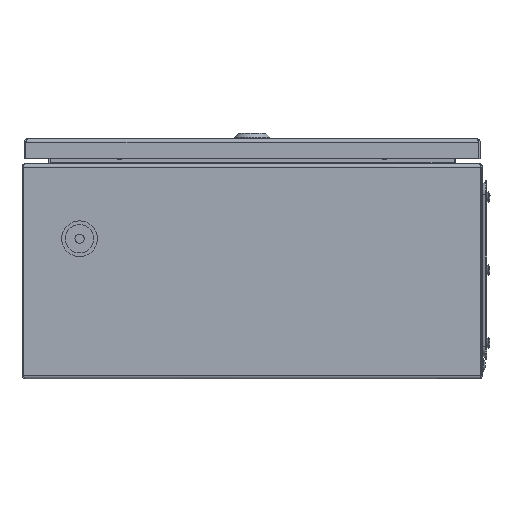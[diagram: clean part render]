
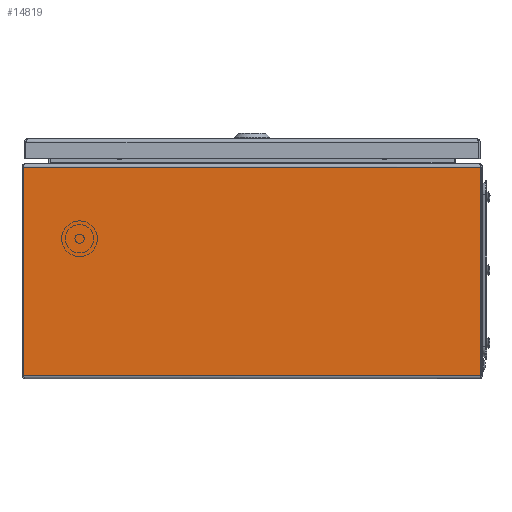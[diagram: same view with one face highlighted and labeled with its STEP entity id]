
A CAD part, left-side view. The second image highlights one B-rep face of the part: STEP entity #14819.
In plain terms, the highlighted planar face has unit normal (-1, 0, 0).
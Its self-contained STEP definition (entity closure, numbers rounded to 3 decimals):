
#332 = CARTESIAN_POINT ( 'NONE',  ( -150., -198.729, 2.7 ) ) ;
#693 = LINE ( 'NONE', #29818, #34595 ) ;
#1400 = DIRECTION ( 'NONE',  ( 0., -1., 0. ) ) ;
#2024 = VERTEX_POINT ( 'NONE', #33090 ) ;
#3063 = EDGE_CURVE ( 'NONE', #37687, #28080, #14276, .T. ) ;
#3817 = ORIENTED_EDGE ( 'NONE', *, *, #17476, .F. ) ;
#3936 = CARTESIAN_POINT ( 'NONE',  ( -150., -198.623, 184.05 ) ) ;
#5029 = ORIENTED_EDGE ( 'NONE', *, *, #45380, .F. ) ;
#5090 = CARTESIAN_POINT ( 'NONE',  ( -150., -198.729, 184.05 ) ) ;
#6542 = LINE ( 'NONE', #21605, #12563 ) ;
#6848 = ORIENTED_EDGE ( 'NONE', *, *, #13715, .T. ) ;
#8447 = VECTOR ( 'NONE', #29620, 1000. ) ;
#9997 = DIRECTION ( 'NONE',  ( 0., 1., 0. ) ) ;
#10684 = DIRECTION ( 'NONE',  ( 0., 0., 1. ) ) ;
#11633 = VERTEX_POINT ( 'NONE', #44480 ) ;
#12563 = VECTOR ( 'NONE', #9997, 1000. ) ;
#13715 = EDGE_CURVE ( 'NONE', #43578, #2024, #6542, .T. ) ;
#14276 = LINE ( 'NONE', #33347, #8447 ) ;
#14819 = ADVANCED_FACE ( 'NONE', ( #47043 ), #32231, .F. ) ;
#14958 = DIRECTION ( 'NONE',  ( 0., 1., 0. ) ) ;
#15436 = DIRECTION ( 'NONE',  ( 0., 1., 0. ) ) ;
#17476 = EDGE_CURVE ( 'NONE', #36859, #2024, #34731, .T. ) ;
#17988 = DIRECTION ( 'NONE',  ( 0., -1., 0. ) ) ;
#20730 = LINE ( 'NONE', #29128, #39357 ) ;
#21123 = ORIENTED_EDGE ( 'NONE', *, *, #46357, .T. ) ;
#21605 = CARTESIAN_POINT ( 'NONE',  ( -150., -2200., 184.05 ) ) ;
#21707 = CARTESIAN_POINT ( 'NONE',  ( -150., -198.623, 2.7 ) ) ;
#24052 = DIRECTION ( 'NONE',  ( 0., 0., -1. ) ) ;
#24186 = ORIENTED_EDGE ( 'NONE', *, *, #35773, .T. ) ;
#25051 = DIRECTION ( 'NONE',  ( 1., 0., 0. ) ) ;
#25187 = VECTOR ( 'NONE', #17988, 1000. ) ;
#25195 = CARTESIAN_POINT ( 'NONE',  ( -150., 198.729, 184.05 ) ) ;
#25986 = EDGE_LOOP ( 'NONE', ( #6848, #3817, #31613, #27192, #5029, #21123, #24186, #34385 ) ) ;
#26847 = CARTESIAN_POINT ( 'NONE',  ( -150., 198.729, 184.05 ) ) ;
#27192 = ORIENTED_EDGE ( 'NONE', *, *, #3063, .F. ) ;
#28080 = VERTEX_POINT ( 'NONE', #39485 ) ;
#28749 = LINE ( 'NONE', #39609, #45957 ) ;
#29128 = CARTESIAN_POINT ( 'NONE',  ( -150., 198.729, 2.7 ) ) ;
#29620 = DIRECTION ( 'NONE',  ( 0., 1., 0. ) ) ;
#29818 = CARTESIAN_POINT ( 'NONE',  ( -150., -2200., 2.7 ) ) ;
#30045 = CARTESIAN_POINT ( 'NONE',  ( -150., 198.623, 2.7 ) ) ;
#31501 = CARTESIAN_POINT ( 'NONE',  ( -150., -2200., 184.05 ) ) ;
#31613 = ORIENTED_EDGE ( 'NONE', *, *, #36922, .F. ) ;
#31630 = EDGE_CURVE ( 'NONE', #35304, #43578, #38924, .T. ) ;
#32231 = PLANE ( 'NONE',  #44483 ) ;
#32763 = CARTESIAN_POINT ( 'NONE',  ( -150., -198.729, 184.05 ) ) ;
#33090 = CARTESIAN_POINT ( 'NONE',  ( -150., 198.623, 184.05 ) ) ;
#33347 = CARTESIAN_POINT ( 'NONE',  ( -150., 198.623, 2.7 ) ) ;
#34385 = ORIENTED_EDGE ( 'NONE', *, *, #31630, .T. ) ;
#34595 = VECTOR ( 'NONE', #14958, 1000. ) ;
#34731 = LINE ( 'NONE', #26847, #42168 ) ;
#35304 = VERTEX_POINT ( 'NONE', #32763 ) ;
#35773 = EDGE_CURVE ( 'NONE', #46191, #35304, #28749, .T. ) ;
#36545 = DIRECTION ( 'NONE',  ( 0., 0., 1. ) ) ;
#36859 = VERTEX_POINT ( 'NONE', #25195 ) ;
#36922 = EDGE_CURVE ( 'NONE', #28080, #36859, #20730, .T. ) ;
#37687 = VERTEX_POINT ( 'NONE', #30045 ) ;
#38675 = VECTOR ( 'NONE', #15436, 1000. ) ;
#38924 = LINE ( 'NONE', #5090, #38675 ) ;
#39357 = VECTOR ( 'NONE', #36545, 1000. ) ;
#39485 = CARTESIAN_POINT ( 'NONE',  ( -150., 198.729, 2.7 ) ) ;
#39609 = CARTESIAN_POINT ( 'NONE',  ( -150., -198.729, 2.7 ) ) ;
#40240 = LINE ( 'NONE', #21707, #25187 ) ;
#42168 = VECTOR ( 'NONE', #1400, 1000. ) ;
#43578 = VERTEX_POINT ( 'NONE', #3936 ) ;
#44480 = CARTESIAN_POINT ( 'NONE',  ( -150., -198.623, 2.7 ) ) ;
#44483 = AXIS2_PLACEMENT_3D ( 'NONE', #31501, #25051, #24052 ) ;
#45380 = EDGE_CURVE ( 'NONE', #11633, #37687, #693, .T. ) ;
#45957 = VECTOR ( 'NONE', #10684, 1000. ) ;
#46191 = VERTEX_POINT ( 'NONE', #332 ) ;
#46357 = EDGE_CURVE ( 'NONE', #11633, #46191, #40240, .T. ) ;
#47043 = FACE_OUTER_BOUND ( 'NONE', #25986, .T. ) ;
